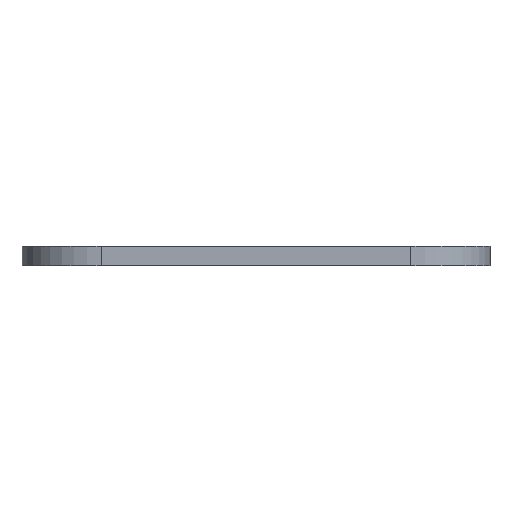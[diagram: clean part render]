
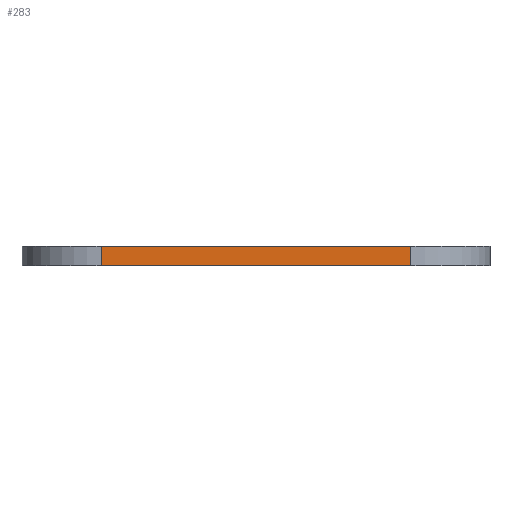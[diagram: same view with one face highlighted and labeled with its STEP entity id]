
A CAD part, left-side view. The second image highlights one B-rep face of the part: STEP entity #283.
In plain terms, the highlighted planar face has unit normal (-1, 0, 0).
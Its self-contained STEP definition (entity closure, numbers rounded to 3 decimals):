
#6 = DIRECTION ( 'NONE',  ( 0., 0., 1. ) ) ;
#7 = VERTEX_POINT ( 'NONE', #1448 ) ;
#37 = CARTESIAN_POINT ( 'NONE',  ( 0., -31.4, -1.556 ) ) ;
#191 = DIRECTION ( 'NONE',  ( -1., 0., 0. ) ) ;
#213 = PLANE ( 'NONE',  #2437 ) ;
#217 = CARTESIAN_POINT ( 'NONE',  ( 0., -31.4, -1.556 ) ) ;
#283 = ADVANCED_FACE ( 'NONE', ( #1467 ), #213, .T. ) ;
#345 = EDGE_CURVE ( 'NONE', #420, #7, #541, .T. ) ;
#420 = VERTEX_POINT ( 'NONE', #217 ) ;
#437 = LINE ( 'NONE', #598, #2222 ) ;
#516 = CARTESIAN_POINT ( 'NONE',  ( 0., -6.4, 0. ) ) ;
#527 = ORIENTED_EDGE ( 'NONE', *, *, #865, .T. ) ;
#541 = LINE ( 'NONE', #37, #1436 ) ;
#555 = ORIENTED_EDGE ( 'NONE', *, *, #594, .T. ) ;
#594 = EDGE_CURVE ( 'NONE', #7, #600, #1016, .T. ) ;
#598 = CARTESIAN_POINT ( 'NONE',  ( 0., -6.4, -1.556 ) ) ;
#600 = VERTEX_POINT ( 'NONE', #516 ) ;
#814 = CARTESIAN_POINT ( 'NONE',  ( 0., -31.4, -1.556 ) ) ;
#865 = EDGE_CURVE ( 'NONE', #1033, #420, #953, .T. ) ;
#866 = VECTOR ( 'NONE', #892, 1000. ) ;
#892 = DIRECTION ( 'NONE',  ( 0., 1., 0. ) ) ;
#953 = LINE ( 'NONE', #814, #1611 ) ;
#1016 = LINE ( 'NONE', #2036, #866 ) ;
#1033 = VERTEX_POINT ( 'NONE', #1629 ) ;
#1306 = EDGE_CURVE ( 'NONE', #600, #1033, #437, .T. ) ;
#1367 = DIRECTION ( 'NONE',  ( 0., 0., 1. ) ) ;
#1436 = VECTOR ( 'NONE', #1367, 1000. ) ;
#1448 = CARTESIAN_POINT ( 'NONE',  ( 0., -31.4, 0. ) ) ;
#1467 = FACE_OUTER_BOUND ( 'NONE', #1727, .T. ) ;
#1611 = VECTOR ( 'NONE', #1759, 1000. ) ;
#1629 = CARTESIAN_POINT ( 'NONE',  ( 0., -6.4, -1.556 ) ) ;
#1727 = EDGE_LOOP ( 'NONE', ( #1828, #527, #2296, #555 ) ) ;
#1759 = DIRECTION ( 'NONE',  ( 0., -1., 0. ) ) ;
#1779 = DIRECTION ( 'NONE',  ( 0., 0., -1. ) ) ;
#1828 = ORIENTED_EDGE ( 'NONE', *, *, #1306, .T. ) ;
#2036 = CARTESIAN_POINT ( 'NONE',  ( 0., -31.4, 0. ) ) ;
#2222 = VECTOR ( 'NONE', #1779, 1000. ) ;
#2289 = CARTESIAN_POINT ( 'NONE',  ( 0., -31.4, -1.556 ) ) ;
#2296 = ORIENTED_EDGE ( 'NONE', *, *, #345, .T. ) ;
#2437 = AXIS2_PLACEMENT_3D ( 'NONE', #2289, #191, #6 ) ;
